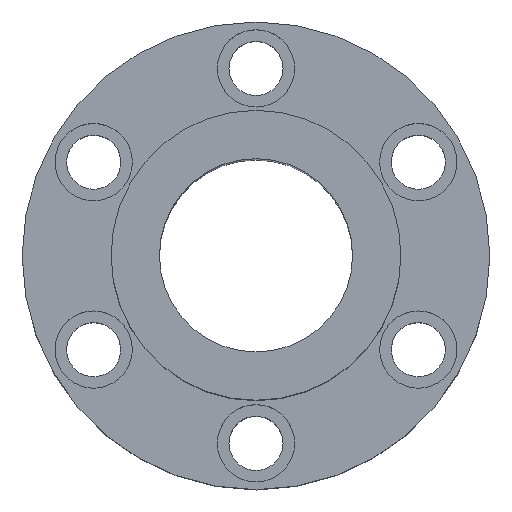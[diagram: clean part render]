
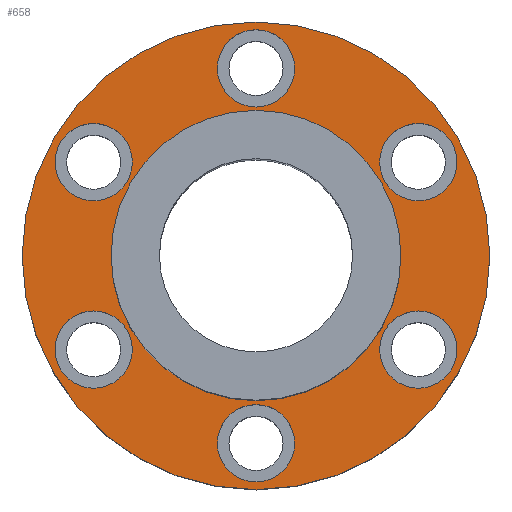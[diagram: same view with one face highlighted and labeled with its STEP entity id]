
A CAD part, top view. The second image highlights one B-rep face of the part: STEP entity #658.
In plain terms, the highlighted planar face has unit normal (0, 0, 1).
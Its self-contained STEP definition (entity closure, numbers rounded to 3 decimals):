
#1=CARTESIAN_POINT('',(0.,0.,24.5));
#2=DIRECTION('',(0.,0.,1.));
#3=DIRECTION('',(1.,0.,0.));
#4=AXIS2_PLACEMENT_3D('',#1,#2,#3);
#6=CARTESIAN_POINT('',(0.,0.,24.5));
#7=DIRECTION('',(0.,0.,1.));
#8=DIRECTION('',(-1.,0.,0.));
#9=AXIS2_PLACEMENT_3D('',#6,#7,#8);
#11=CARTESIAN_POINT('',(42.002,-24.25,24.5));
#12=DIRECTION('',(0.,0.,-1.));
#13=DIRECTION('',(-0.5,-0.866,0.));
#14=AXIS2_PLACEMENT_3D('',#11,#12,#13);
#16=CARTESIAN_POINT('',(42.002,-24.25,24.5));
#17=DIRECTION('',(0.,0.,-1.));
#18=DIRECTION('',(0.5,0.866,0.));
#19=AXIS2_PLACEMENT_3D('',#16,#17,#18);
#21=CARTESIAN_POINT('',(-42.002,-24.25,24.5));
#22=DIRECTION('',(0.,0.,-1.));
#23=DIRECTION('',(-0.5,0.866,0.));
#24=AXIS2_PLACEMENT_3D('',#21,#22,#23);
#26=CARTESIAN_POINT('',(-42.002,-24.25,24.5));
#27=DIRECTION('',(0.,0.,-1.));
#28=DIRECTION('',(0.5,-0.866,0.));
#29=AXIS2_PLACEMENT_3D('',#26,#27,#28);
#31=CARTESIAN_POINT('',(0.,48.5,24.5));
#32=DIRECTION('',(0.,0.,-1.));
#33=DIRECTION('',(1.,0.,0.));
#34=AXIS2_PLACEMENT_3D('',#31,#32,#33);
#36=CARTESIAN_POINT('',(0.,48.5,24.5));
#37=DIRECTION('',(0.,0.,-1.));
#38=DIRECTION('',(-1.,0.,0.));
#39=AXIS2_PLACEMENT_3D('',#36,#37,#38);
#41=CARTESIAN_POINT('',(0.,0.,24.5));
#42=DIRECTION('',(0.,0.,-1.));
#43=DIRECTION('',(1.,0.,0.));
#44=AXIS2_PLACEMENT_3D('',#41,#42,#43);
#46=CARTESIAN_POINT('',(0.,0.,24.5));
#47=DIRECTION('',(0.,0.,-1.));
#48=DIRECTION('',(-1.,0.,0.));
#49=AXIS2_PLACEMENT_3D('',#46,#47,#48);
#51=CARTESIAN_POINT('',(-42.002,24.25,24.5));
#52=DIRECTION('',(0.,0.,-1.));
#53=DIRECTION('',(0.5,0.866,0.));
#54=AXIS2_PLACEMENT_3D('',#51,#52,#53);
#56=CARTESIAN_POINT('',(-42.002,24.25,24.5));
#57=DIRECTION('',(0.,0.,-1.));
#58=DIRECTION('',(-0.5,-0.866,0.));
#59=AXIS2_PLACEMENT_3D('',#56,#57,#58);
#61=CARTESIAN_POINT('',(0.,-48.5,24.5));
#62=DIRECTION('',(0.,0.,-1.));
#63=DIRECTION('',(-1.,0.,0.));
#64=AXIS2_PLACEMENT_3D('',#61,#62,#63);
#66=CARTESIAN_POINT('',(0.,-48.5,24.5));
#67=DIRECTION('',(0.,0.,-1.));
#68=DIRECTION('',(1.,0.,0.));
#69=AXIS2_PLACEMENT_3D('',#66,#67,#68);
#71=CARTESIAN_POINT('',(42.002,24.25,24.5));
#72=DIRECTION('',(0.,0.,-1.));
#73=DIRECTION('',(0.5,-0.866,0.));
#74=AXIS2_PLACEMENT_3D('',#71,#72,#73);
#76=CARTESIAN_POINT('',(42.002,24.25,24.5));
#77=DIRECTION('',(0.,0.,-1.));
#78=DIRECTION('',(-0.5,0.866,0.));
#79=AXIS2_PLACEMENT_3D('',#76,#77,#78);
#533=CARTESIAN_POINT('',(-60.5,0.,24.5));
#535=VERTEX_POINT('',#533);
#537=CARTESIAN_POINT('',(60.5,0.,24.5));
#539=VERTEX_POINT('',#537);
#541=CARTESIAN_POINT('',(10.,48.5,24.5));
#543=VERTEX_POINT('',#541);
#545=CARTESIAN_POINT('',(-10.,48.5,24.5));
#547=VERTEX_POINT('',#545);
#549=CARTESIAN_POINT('',(-37.002,32.91,24.5));
#551=VERTEX_POINT('',#549);
#553=CARTESIAN_POINT('',(-47.002,15.59,24.5));
#555=VERTEX_POINT('',#553);
#557=CARTESIAN_POINT('',(-47.002,-15.59,24.5));
#559=VERTEX_POINT('',#557);
#561=CARTESIAN_POINT('',(-37.002,-32.91,24.5));
#563=VERTEX_POINT('',#561);
#565=CARTESIAN_POINT('',(-10.,-48.5,24.5));
#567=VERTEX_POINT('',#565);
#569=CARTESIAN_POINT('',(10.,-48.5,24.5));
#571=VERTEX_POINT('',#569);
#573=CARTESIAN_POINT('',(37.002,-32.91,24.5));
#575=VERTEX_POINT('',#573);
#577=CARTESIAN_POINT('',(47.002,-15.59,24.5));
#579=VERTEX_POINT('',#577);
#581=CARTESIAN_POINT('',(47.002,15.59,24.5));
#583=VERTEX_POINT('',#581);
#585=CARTESIAN_POINT('',(37.002,32.91,24.5));
#587=VERTEX_POINT('',#585);
#598=CARTESIAN_POINT('',(37.5,0.,24.5));
#600=VERTEX_POINT('',#598);
#602=CARTESIAN_POINT('',(-37.5,0.,24.5));
#604=VERTEX_POINT('',#602);
#605=CARTESIAN_POINT('',(0.,0.,24.5));
#606=DIRECTION('',(0.,0.,1.));
#607=DIRECTION('',(1.,0.,0.));
#608=AXIS2_PLACEMENT_3D('',#605,#606,#607);
#609=PLANE('',#608);
#611=ORIENTED_EDGE('',*,*,#610,.F.);
#613=ORIENTED_EDGE('',*,*,#612,.F.);
#614=EDGE_LOOP('',(#611,#613));
#615=FACE_OUTER_BOUND('',#614,.F.);
#617=ORIENTED_EDGE('',*,*,#616,.F.);
#619=ORIENTED_EDGE('',*,*,#618,.F.);
#620=EDGE_LOOP('',(#617,#619));
#621=FACE_BOUND('',#620,.F.);
#623=ORIENTED_EDGE('',*,*,#622,.F.);
#625=ORIENTED_EDGE('',*,*,#624,.F.);
#626=EDGE_LOOP('',(#623,#625));
#627=FACE_BOUND('',#626,.F.);
#629=ORIENTED_EDGE('',*,*,#628,.F.);
#631=ORIENTED_EDGE('',*,*,#630,.F.);
#632=EDGE_LOOP('',(#629,#631));
#633=FACE_BOUND('',#632,.F.);
#635=ORIENTED_EDGE('',*,*,#634,.F.);
#637=ORIENTED_EDGE('',*,*,#636,.F.);
#638=EDGE_LOOP('',(#635,#637));
#639=FACE_BOUND('',#638,.F.);
#641=ORIENTED_EDGE('',*,*,#640,.F.);
#643=ORIENTED_EDGE('',*,*,#642,.F.);
#644=EDGE_LOOP('',(#641,#643));
#645=FACE_BOUND('',#644,.F.);
#647=ORIENTED_EDGE('',*,*,#646,.F.);
#649=ORIENTED_EDGE('',*,*,#648,.F.);
#650=EDGE_LOOP('',(#647,#649));
#651=FACE_BOUND('',#650,.F.);
#653=ORIENTED_EDGE('',*,*,#652,.F.);
#655=ORIENTED_EDGE('',*,*,#654,.F.);
#656=EDGE_LOOP('',(#653,#655));
#657=FACE_BOUND('',#656,.F.);
#658=ADVANCED_FACE('',(#615,#621,#627,#633,#639,#645,#651,#657),#609,.T.);
#5=CIRCLE('',#4,60.5);
#10=CIRCLE('',#9,60.5);
#15=CIRCLE('',#14,10.);
#20=CIRCLE('',#19,10.);
#25=CIRCLE('',#24,10.);
#30=CIRCLE('',#29,10.);
#35=CIRCLE('',#34,10.);
#40=CIRCLE('',#39,10.);
#45=CIRCLE('',#44,37.5);
#50=CIRCLE('',#49,37.5);
#55=CIRCLE('',#54,10.);
#60=CIRCLE('',#59,10.);
#65=CIRCLE('',#64,10.);
#70=CIRCLE('',#69,10.);
#75=CIRCLE('',#74,10.);
#80=CIRCLE('',#79,10.);
#610=EDGE_CURVE('',#539,#535,#5,.T.);
#612=EDGE_CURVE('',#535,#539,#10,.T.);
#616=EDGE_CURVE('',#575,#579,#15,.T.);
#618=EDGE_CURVE('',#579,#575,#20,.T.);
#622=EDGE_CURVE('',#559,#563,#25,.T.);
#624=EDGE_CURVE('',#563,#559,#30,.T.);
#628=EDGE_CURVE('',#543,#547,#35,.T.);
#630=EDGE_CURVE('',#547,#543,#40,.T.);
#634=EDGE_CURVE('',#600,#604,#45,.T.);
#636=EDGE_CURVE('',#604,#600,#50,.T.);
#640=EDGE_CURVE('',#551,#555,#55,.T.);
#642=EDGE_CURVE('',#555,#551,#60,.T.);
#646=EDGE_CURVE('',#567,#571,#65,.T.);
#648=EDGE_CURVE('',#571,#567,#70,.T.);
#652=EDGE_CURVE('',#583,#587,#75,.T.);
#654=EDGE_CURVE('',#587,#583,#80,.T.);
